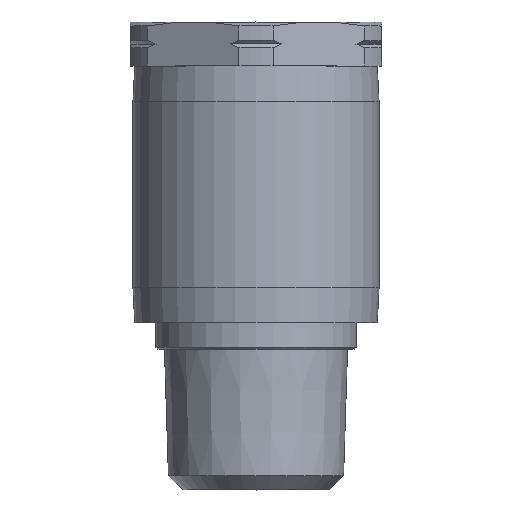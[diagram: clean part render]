
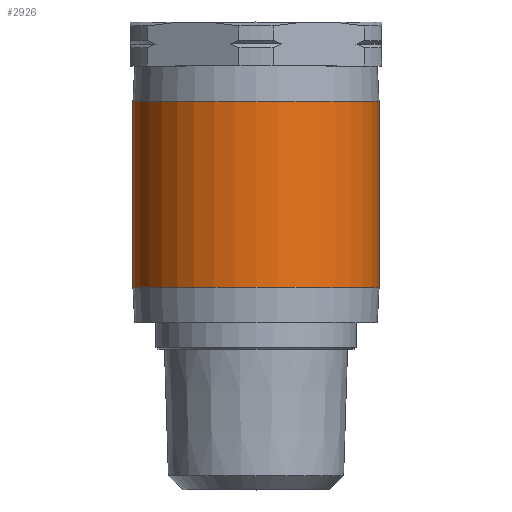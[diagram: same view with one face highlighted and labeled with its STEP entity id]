
A CAD part, top view. The second image highlights one B-rep face of the part: STEP entity #2926.
In plain terms, the highlighted cylindrical face has radius 7 mm (diameter 14 mm), a full revolution.
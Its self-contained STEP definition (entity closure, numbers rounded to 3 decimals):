
#1986=CARTESIAN_POINT('',(-4.25,0.,5.562));
#1987=VERTEX_POINT('',#1986);
#1988=CARTESIAN_POINT('',(-4.25,0.,5.562));
#1989=CARTESIAN_POINT('',(-4.25,0.553,5.562));
#1990=CARTESIAN_POINT('',(-4.136,1.127,5.653));
#1991=CARTESIAN_POINT('',(-3.699,2.167,5.949));
#1992=CARTESIAN_POINT('',(-3.376,2.635,6.146));
#1993=CARTESIAN_POINT('',(-2.637,3.373,6.497));
#1994=CARTESIAN_POINT('',(-2.169,3.699,6.677));
#1995=CARTESIAN_POINT('',(-1.125,4.137,6.93));
#1996=CARTESIAN_POINT('',(-0.549,4.25,7.));
#1997=CARTESIAN_POINT('',(0.549,4.25,7.));
#1998=CARTESIAN_POINT('',(1.125,4.137,6.93));
#1999=CARTESIAN_POINT('',(2.169,3.699,6.677));
#2000=CARTESIAN_POINT('',(2.637,3.373,6.497));
#2001=CARTESIAN_POINT('',(3.376,2.635,6.146));
#2002=CARTESIAN_POINT('',(3.699,2.167,5.949));
#2003=CARTESIAN_POINT('',(4.136,1.127,5.653));
#2004=CARTESIAN_POINT('',(4.25,0.553,5.562));
#2005=CARTESIAN_POINT('',(4.25,-0.553,5.562));
#2006=CARTESIAN_POINT('',(4.136,-1.127,5.653));
#2007=CARTESIAN_POINT('',(3.699,-2.167,5.949));
#2008=CARTESIAN_POINT('',(3.376,-2.635,6.146));
#2009=CARTESIAN_POINT('',(2.637,-3.373,6.497));
#2010=CARTESIAN_POINT('',(2.169,-3.699,6.677));
#2011=CARTESIAN_POINT('',(1.125,-4.137,6.93));
#2012=CARTESIAN_POINT('',(0.549,-4.25,7.));
#2013=CARTESIAN_POINT('',(-0.549,-4.25,7.));
#2014=CARTESIAN_POINT('',(-1.125,-4.137,6.93));
#2015=CARTESIAN_POINT('',(-2.169,-3.699,6.677));
#2016=CARTESIAN_POINT('',(-2.637,-3.373,6.497));
#2017=CARTESIAN_POINT('',(-3.376,-2.635,6.146));
#2018=CARTESIAN_POINT('',(-3.699,-2.167,5.949));
#2019=CARTESIAN_POINT('',(-4.136,-1.127,5.653));
#2020=CARTESIAN_POINT('',(-4.25,-0.553,5.562));
#2021=CARTESIAN_POINT('',(-4.25,0.0,5.562));
#2022=B_SPLINE_CURVE_WITH_KNOTS('',3,(#1988,#1989,#1990,#1991,#1992,#1993,#1994,#1995,#1996,#1997,#1998,#1999,#2000,#2001,#2002,#2003,#2004,#2005,#2006,#2007,#2008,#2009,#2010,#2011,#2012,#2013,#2014,#2015,#2016,#2017,#2018,#2019,#2020,#2021),.UNSPECIFIED.,.T.,.U.,(4,2,2,2,2,2,2,2,2,2,2,2,2,2,2,2,4),(0.0,0.166,0.332,0.497,0.661,0.826,0.991,1.157,1.322,1.488,1.654,1.819,1.984,2.148,2.313,2.479,2.645),.UNSPECIFIED.);
#2023=EDGE_CURVE('',#1987,#1987,#2022,.T.);
#2889=CARTESIAN_POINT('',(-7.,-5.3,0.0));
#2890=VERTEX_POINT('',#2889);
#2891=CARTESIAN_POINT('',(0.0,-5.3,0.0));
#2892=DIRECTION('',(0.0,1.0,0.0));
#2893=DIRECTION('',(-1.0,0.0,0.0));
#2894=AXIS2_PLACEMENT_3D('',#2891,#2892,#2893);
#2895=CIRCLE('',#2894,7.);
#2896=EDGE_CURVE('',#2890,#2890,#2895,.T.);
#2904=CARTESIAN_POINT('',(0.0,0.,0.0));
#2905=DIRECTION('',(0.0,1.0,0.0));
#2906=DIRECTION('',(-1.0,0.0,0.0));
#2907=AXIS2_PLACEMENT_3D('',#2904,#2905,#2906);
#2908=CYLINDRICAL_SURFACE('',#2907,7.);
#2909=CARTESIAN_POINT('',(-7.,5.3,0.0));
#2910=VERTEX_POINT('',#2909);
#2911=CARTESIAN_POINT('',(0.0,5.3,0.0));
#2912=DIRECTION('',(0.0,1.0,0.0));
#2913=DIRECTION('',(-1.0,0.0,0.0));
#2914=AXIS2_PLACEMENT_3D('',#2911,#2912,#2913);
#2915=CIRCLE('',#2914,7.);
#2916=EDGE_CURVE('',#2910,#2910,#2915,.T.);
#2917=ORIENTED_EDGE('',*,*,#2916,.F.);
#2918=EDGE_LOOP('',(#2917));
#2919=FACE_OUTER_BOUND('',#2918,.T.);
#2920=ORIENTED_EDGE('',*,*,#2023,.T.);
#2921=EDGE_LOOP('',(#2920));
#2922=FACE_BOUND('',#2921,.T.);
#2923=ORIENTED_EDGE('',*,*,#2896,.T.);
#2924=EDGE_LOOP('',(#2923));
#2925=FACE_BOUND('',#2924,.T.);
#2926=ADVANCED_FACE('',(#2919,#2922,#2925),#2908,.T.);
